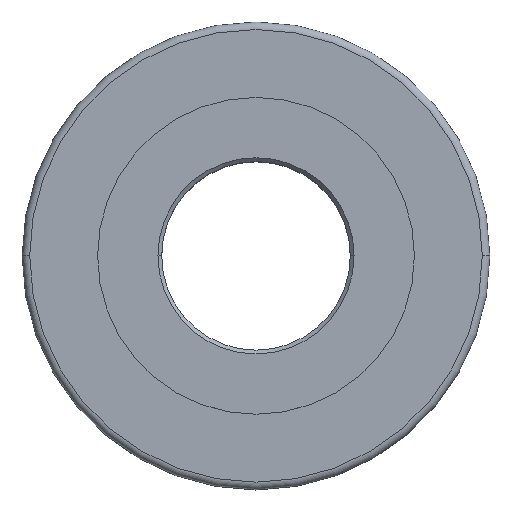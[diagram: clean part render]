
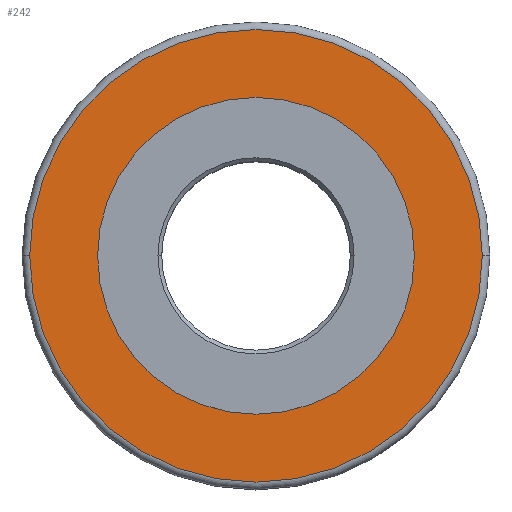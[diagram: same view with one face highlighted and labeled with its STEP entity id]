
A CAD part, top view. The second image highlights one B-rep face of the part: STEP entity #242.
In plain terms, the highlighted planar face has unit normal (0, 0, 1).
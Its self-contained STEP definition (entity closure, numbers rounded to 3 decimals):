
#2 = CARTESIAN_POINT ( 'NONE',  ( 21., 0., 24. ) ) ;
#14 = VERTEX_POINT ( 'NONE', #2 ) ;
#25 = ORIENTED_EDGE ( 'NONE', *, *, #183, .T. ) ;
#50 = DIRECTION ( 'NONE',  ( 1., 0., 0. ) ) ;
#62 = DIRECTION ( 'NONE',  ( 0., 0., 1. ) ) ;
#65 = CARTESIAN_POINT ( 'NONE',  ( 0., 0., 24. ) ) ;
#69 = CIRCLE ( 'NONE', #214, 30. ) ;
#70 = CARTESIAN_POINT ( 'NONE',  ( 30., 0., 24. ) ) ;
#73 = EDGE_CURVE ( 'NONE', #576, #14, #334, .T. ) ;
#84 = DIRECTION ( 'NONE',  ( 1., 0., 0. ) ) ;
#97 = DIRECTION ( 'NONE',  ( 1., 0., 0. ) ) ;
#118 = EDGE_LOOP ( 'NONE', ( #25, #373 ) ) ;
#140 = DIRECTION ( 'NONE',  ( 0., 0., 1. ) ) ;
#164 = AXIS2_PLACEMENT_3D ( 'NONE', #65, #353, #470 ) ;
#183 = EDGE_CURVE ( 'NONE', #285, #248, #469, .T. ) ;
#214 = AXIS2_PLACEMENT_3D ( 'NONE', #386, #409, #97 ) ;
#228 = ORIENTED_EDGE ( 'NONE', *, *, #73, .F. ) ;
#238 = AXIS2_PLACEMENT_3D ( 'NONE', #476, #140, #421 ) ;
#242 = ADVANCED_FACE ( 'NONE', ( #313, #419 ), #416, .T. ) ;
#248 = VERTEX_POINT ( 'NONE', #554 ) ;
#256 = CARTESIAN_POINT ( 'NONE',  ( 0., 0., 24. ) ) ;
#259 = AXIS2_PLACEMENT_3D ( 'NONE', #544, #62, #84 ) ;
#285 = VERTEX_POINT ( 'NONE', #70 ) ;
#288 = EDGE_CURVE ( 'NONE', #248, #285, #69, .T. ) ;
#313 = FACE_BOUND ( 'NONE', #378, .T. ) ;
#334 = CIRCLE ( 'NONE', #238, 21. ) ;
#348 = CARTESIAN_POINT ( 'NONE',  ( -21., 0., 24. ) ) ;
#353 = DIRECTION ( 'NONE',  ( 0., 0., 1. ) ) ;
#370 = CIRCLE ( 'NONE', #259, 21. ) ;
#373 = ORIENTED_EDGE ( 'NONE', *, *, #288, .T. ) ;
#378 = EDGE_LOOP ( 'NONE', ( #429, #228 ) ) ;
#386 = CARTESIAN_POINT ( 'NONE',  ( 0., 0., 24. ) ) ;
#409 = DIRECTION ( 'NONE',  ( 0., 0., 1. ) ) ;
#416 = PLANE ( 'NONE',  #164 ) ;
#419 = FACE_OUTER_BOUND ( 'NONE', #118, .T. ) ;
#421 = DIRECTION ( 'NONE',  ( 1., 0., 0. ) ) ;
#429 = ORIENTED_EDGE ( 'NONE', *, *, #483, .F. ) ;
#443 = DIRECTION ( 'NONE',  ( 0., 0., 1. ) ) ;
#469 = CIRCLE ( 'NONE', #556, 30. ) ;
#470 = DIRECTION ( 'NONE',  ( 1., 0., 0. ) ) ;
#476 = CARTESIAN_POINT ( 'NONE',  ( 0., 0., 24. ) ) ;
#483 = EDGE_CURVE ( 'NONE', #14, #576, #370, .T. ) ;
#544 = CARTESIAN_POINT ( 'NONE',  ( 0., 0., 24. ) ) ;
#554 = CARTESIAN_POINT ( 'NONE',  ( -30., 0., 24. ) ) ;
#556 = AXIS2_PLACEMENT_3D ( 'NONE', #256, #443, #50 ) ;
#576 = VERTEX_POINT ( 'NONE', #348 ) ;
